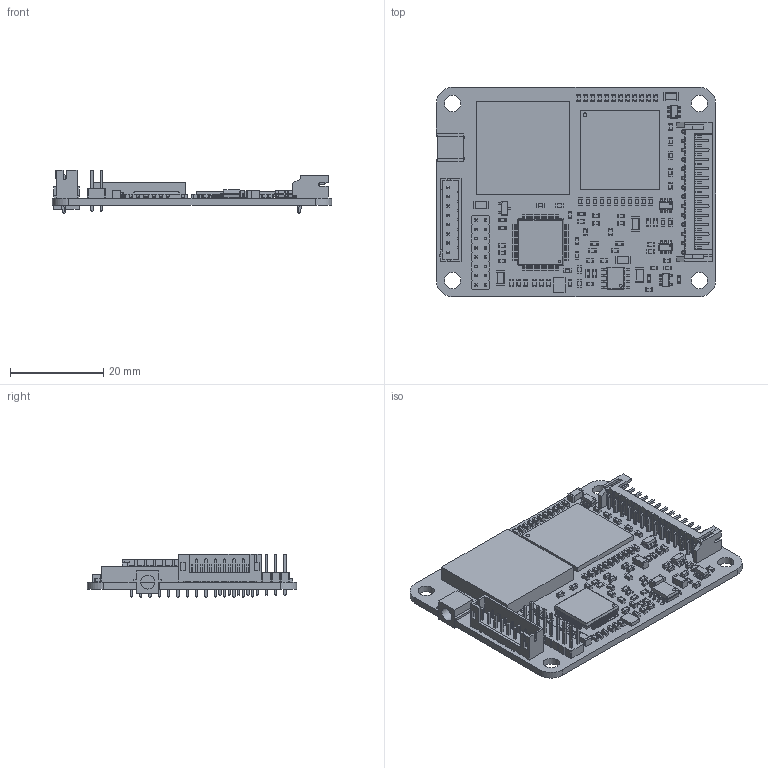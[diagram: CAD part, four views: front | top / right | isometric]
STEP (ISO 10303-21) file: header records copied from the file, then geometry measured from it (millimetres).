
FILE_DESCRIPTION(('KiCad electronic assembly'),'2;1');
FILE_NAME('pNAV2_hw2_1.step','2026-02-12T07:13:57',('Pcbnew'),('Kicad'), 'Open CASCADE STEP processor 7.9','KiCad to STEP converter','Unknown' );
FILE_SCHEMA(('AUTOMOTIVE_DESIGN { 1 0 10303 214 1 1 1 1 }'));
Length unit declared in the file: millimetre
Products named in the file (20): pNAV2_hw2_1 1; L_0603_1608Metric; C_0603_1608Metric; SOT-23; C_1206_3216Metric; JST_PH_S14B-PH-K_1x14_P2.00mm_Horizontal; SOIC-8_3.9x4.9mm_P1.27mm; R_0603_1608Metric; Filter_1411-5_1.4x1.1mm; mcx60612202111309-BodyPad; JST_PH_B8B-PH-K_1x08_P2.00mm_Vertical; LQFP-64_10x10mm_P0.5mm; SOT-23-5; SOT-23-6; PinHeader_2x08_P2.00mm_Vertical; Shield20x20x3-BodyPad; stepECS-120-8-33AQ-JVY-TR3-BodyPad; BGA-256_17.0x17.0mm_Layout16x16_P1.0mm_Ball0.5mm_Pad0.4mm_NSMD; QFN-28-1EP_5x5mm_P0.5mm_EP3.35x3.35mm; pNAV2_hw2_1_PCB
Assembly tree (137 placements, depth 2):
  pNAV2_hw2_1 1
    L_0603_1608Metric  x20
    C_0603_1608Metric  x73
    SOT-23  x2
    C_1206_3216Metric  x6
    JST_PH_S14B-PH-K_1x14_P2.00mm_Horizontal
    SOIC-8_3.9x4.9mm_P1.27mm
    R_0603_1608Metric  x19
    Filter_1411-5_1.4x1.1mm
    mcx60612202111309-BodyPad
    JST_PH_B8B-PH-K_1x08_P2.00mm_Vertical
    LQFP-64_10x10mm_P0.5mm
    SOT-23-5  x2
    SOT-23-6  x3
    PinHeader_2x08_P2.00mm_Vertical
    Shield20x20x3-BodyPad
    stepECS-120-8-33AQ-JVY-TR3-BodyPad
    BGA-256_17.0x17.0mm_Layout16x16_P1.0mm_Ball0.5mm_Pad0.4mm_NSMD
    QFN-28-1EP_5x5mm_P0.5mm_EP3.35x3.35mm
    pNAV2_hw2_1_PCB
Bounding box: 60 x 45 x 9.4 mm (x, y, z)
Volume: 6783.3 mm3; surface area: 11336.2 mm2
Topology: 137 solids, 137 shells, 6594 faces, 17209 edges, 11172 vertices
Faces by surface type: plane 4484, cylinder 1894, bspline 152, sphere 64
Full cylindrical faces by diameter (mm): 0.2 x9, 0.5 x1, 0.75 x22, 0.8 x17, 3 x1, 3.5 x4
Entity records: 116661 total; most frequent: CARTESIAN_POINT 16855, ORIENTED_EDGE 15887, DIRECTION 15124, EDGE_CURVE 7944, LINE 6642, VECTOR 6642, VERTEX_POINT 5100, AXIS2_PLACEMENT_3D 4241
